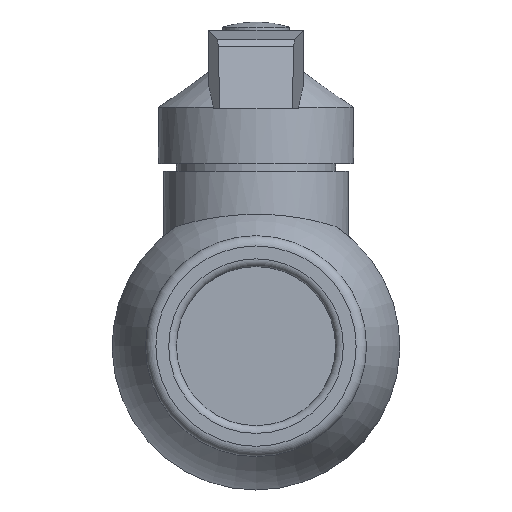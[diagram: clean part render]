
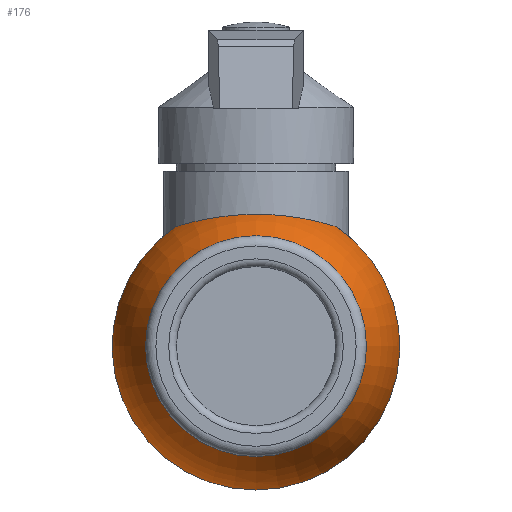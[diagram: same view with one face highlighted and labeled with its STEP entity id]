
A CAD part, front view. The second image highlights one B-rep face of the part: STEP entity #176.
In plain terms, the highlighted toroidal (fillet/blend) face has major radius 25.151 mm and minor radius 53.901 mm.
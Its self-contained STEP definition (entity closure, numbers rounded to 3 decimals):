
#176=ADVANCED_FACE('',(#1094,#1096),#1098,.F.);
#1094=FACE_BOUND('',#1095,.T.);
#1095=EDGE_LOOP('',(#1840,#1841,#1842));
#1096=FACE_OUTER_BOUND('',#1097,.T.);
#1097=EDGE_LOOP('',(#1843));
#1098=DEGENERATE_TOROIDAL_SURFACE('',#1099,25.151,53.901,.F.);
#1099=AXIS2_PLACEMENT_3D('',#1100,#1101,#1102);
#1100=CARTESIAN_POINT('',(0.,0.,0.));
#1101=DIRECTION('',(0.,-1.,0.));
#1102=DIRECTION('',(0.,0.,-1.));
#1840=ORIENTED_EDGE('',*,*,#2186,.F.);
#1841=ORIENTED_EDGE('',*,*,#2188,.T.);
#1842=ORIENTED_EDGE('',*,*,#2189,.T.);
#1843=ORIENTED_EDGE('',*,*,#2190,.F.);
#2186=EDGE_CURVE('',#2720,#2722,#2723,.T.);
#2188=EDGE_CURVE('',#2720,#2725,#2726,.T.);
#2189=EDGE_CURVE('',#2725,#2722,#2727,.T.);
#2190=EDGE_CURVE('',#2728,#2728,#2729,.T.);
#2720=VERTEX_POINT('',#4238);
#2722=VERTEX_POINT('',#4278);
#2723=B_SPLINE_CURVE_WITH_KNOTS('',3,
(#4279,#4280,#4281,#4282,#4283,#4284,#4285,#4286,#4287,#4288,#4289,#4290,#4291,#4292,
#4293,#4294,#4295,#4296,#4297,#4298,#4299,#4300,#4301,#4302,#4303,#4304,#4305,#4306,
#4307,#4308,#4309,#4310,#4311,#4312,#4313,#4314,#4315,#4316,#4317,#4318,#4319,#4320,
#4321,#4322,#4323,#4324,#4325,#4326,#4327,#4328,#4329,#4330,#4331,#4332,#4333,#4334,
#4335,#4336,#4337,#4338,#4339,#4340,#4341,#4342,#4343,#4344,#4345,#4346,#4347,#4348,
#4349,#4350,#4351,#4352,#4353,#4354,#4355,#4356,#4357,#4358,#4359,#4360,#4361,#4362,
#4363),
.UNSPECIFIED.,.F.,.F.,
(4,1,1,1,1,1,1,1,1,1,1,1,1,1,1,1,1,1,1,1,1,1,1,1,1,1,1,1,1,1,1,1,1,1,1,1,1,1,1,1,
1,1,1,1,1,1,1,1,1,1,1,1,1,1,1,1,1,1,1,1,1,1,1,1,1,1,1,1,1,1,1,1,1,1,1,1,1,1,1,1,
1,1,4),
(0.,0.009,0.019,0.028,0.037,
0.047,0.056,0.066,0.075,0.085,
0.095,0.105,0.115,0.125,0.135,
0.145,0.155,0.165,0.175,0.185,
0.195,0.205,0.219,0.233,0.247,
0.257,0.268,0.279,0.29,0.3,
0.311,0.321,0.332,0.342,0.352,
0.362,0.373,0.383,0.393,0.404,
0.414,0.425,0.436,0.447,0.459,
0.47,0.481,0.493,0.5,0.505,
0.516,0.528,0.54,0.552,0.566,
0.581,0.604,0.628,0.651,0.668,
0.683,0.696,0.71,0.724,0.737,
0.751,0.764,0.777,0.791,0.804,
0.817,0.83,0.843,0.855,0.868,
0.882,0.897,0.918,0.94,0.961,
0.975,0.988,1.),
.UNSPECIFIED.);
#2725=VERTEX_POINT('',#4418);
#2726=CIRCLE('',#4419,28.);
#2727=CIRCLE('',#4423,28.);
#2728=VERTEX_POINT('',#4427);
#2729=CIRCLE('',#4428,21.5);
#4238=CARTESIAN_POINT('',(-15.611,-8.96,23.244));
#4278=CARTESIAN_POINT('',(15.611,-8.96,23.244));
#4279=CARTESIAN_POINT('',(-15.611,-8.96,23.244));
#4280=CARTESIAN_POINT('',(-15.553,-9.062,23.263));
#4281=CARTESIAN_POINT('',(-15.435,-9.263,23.3));
#4282=CARTESIAN_POINT('',(-15.252,-9.561,23.357));
#4283=CARTESIAN_POINT('',(-15.064,-9.855,23.415));
#4284=CARTESIAN_POINT('',(-14.869,-10.147,23.474));
#4285=CARTESIAN_POINT('',(-14.668,-10.436,23.534));
#4286=CARTESIAN_POINT('',(-14.459,-10.723,23.595));
#4287=CARTESIAN_POINT('',(-14.242,-11.01,23.658));
#4288=CARTESIAN_POINT('',(-14.017,-11.295,23.722));
#4289=CARTESIAN_POINT('',(-13.784,-11.578,23.787));
#4290=CARTESIAN_POINT('',(-13.544,-11.857,23.853));
#4291=CARTESIAN_POINT('',(-13.297,-12.134,23.92));
#4292=CARTESIAN_POINT('',(-13.042,-12.407,23.987));
#4293=CARTESIAN_POINT('',(-12.781,-12.677,24.054));
#4294=CARTESIAN_POINT('',(-12.513,-12.941,24.122));
#4295=CARTESIAN_POINT('',(-12.24,-13.2,24.189));
#4296=CARTESIAN_POINT('',(-11.961,-13.453,24.256));
#4297=CARTESIAN_POINT('',(-11.677,-13.7,24.323));
#4298=CARTESIAN_POINT('',(-11.387,-13.942,24.389));
#4299=CARTESIAN_POINT('',(-11.091,-14.178,24.455));
#4300=CARTESIAN_POINT('',(-10.79,-14.41,24.52));
#4301=CARTESIAN_POINT('',(-10.445,-14.662,24.592));
#4302=CARTESIAN_POINT('',(-10.055,-14.933,24.671));
#4303=CARTESIAN_POINT('',(-9.616,-15.219,24.756));
#4304=CARTESIAN_POINT('',(-9.202,-15.472,24.833));
#4305=CARTESIAN_POINT('',(-8.817,-15.695,24.901));
#4306=CARTESIAN_POINT('',(-8.462,-15.888,24.961));
#4307=CARTESIAN_POINT('',(-8.103,-16.075,25.019));
#4308=CARTESIAN_POINT('',(-7.739,-16.253,25.075));
#4309=CARTESIAN_POINT('',(-7.374,-16.422,25.129));
#4310=CARTESIAN_POINT('',(-7.008,-16.582,25.18));
#4311=CARTESIAN_POINT('',(-6.641,-16.732,25.229));
#4312=CARTESIAN_POINT('',(-6.274,-16.873,25.275));
#4313=CARTESIAN_POINT('',(-5.906,-17.005,25.318));
#4314=CARTESIAN_POINT('',(-5.538,-17.128,25.359));
#4315=CARTESIAN_POINT('',(-5.168,-17.243,25.398));
#4316=CARTESIAN_POINT('',(-4.795,-17.351,25.434));
#4317=CARTESIAN_POINT('',(-4.417,-17.451,25.468));
#4318=CARTESIAN_POINT('',(-4.033,-17.544,25.499));
#4319=CARTESIAN_POINT('',(-3.643,-17.629,25.528));
#4320=CARTESIAN_POINT('',(-3.245,-17.707,25.554));
#4321=CARTESIAN_POINT('',(-2.841,-17.776,25.578));
#4322=CARTESIAN_POINT('',(-2.427,-17.837,25.599));
#4323=CARTESIAN_POINT('',(-2.005,-17.89,25.617));
#4324=CARTESIAN_POINT('',(-1.577,-17.933,25.632));
#4325=CARTESIAN_POINT('',(-1.144,-17.965,25.644));
#4326=CARTESIAN_POINT('',(-0.706,-17.988,25.651));
#4327=CARTESIAN_POINT('',(-0.324,-17.998,25.655));
#4328=CARTESIAN_POINT('',(-0.029,-18.,25.656));
#4329=CARTESIAN_POINT('',(0.268,-17.999,25.655));
#4330=CARTESIAN_POINT('',(0.626,-17.991,25.653));
#4331=CARTESIAN_POINT('',(1.076,-17.97,25.645));
#4332=CARTESIAN_POINT('',(1.529,-17.937,25.634));
#4333=CARTESIAN_POINT('',(2.007,-17.89,25.618));
#4334=CARTESIAN_POINT('',(2.527,-17.825,25.595));
#4335=CARTESIAN_POINT('',(3.18,-17.722,25.56));
#4336=CARTESIAN_POINT('',(3.947,-17.569,25.508));
#4337=CARTESIAN_POINT('',(4.805,-17.354,25.435));
#4338=CARTESIAN_POINT('',(5.572,-17.121,25.357));
#4339=CARTESIAN_POINT('',(6.231,-16.891,25.281));
#4340=CARTESIAN_POINT('',(6.764,-16.684,25.213));
#4341=CARTESIAN_POINT('',(7.258,-16.475,25.146));
#4342=CARTESIAN_POINT('',(7.728,-16.259,25.077));
#4343=CARTESIAN_POINT('',(8.19,-16.032,25.005));
#4344=CARTESIAN_POINT('',(8.643,-15.792,24.931));
#4345=CARTESIAN_POINT('',(9.086,-15.541,24.854));
#4346=CARTESIAN_POINT('',(9.518,-15.28,24.775));
#4347=CARTESIAN_POINT('',(9.941,-15.009,24.694));
#4348=CARTESIAN_POINT('',(10.352,-14.728,24.612));
#4349=CARTESIAN_POINT('',(10.752,-14.438,24.528));
#4350=CARTESIAN_POINT('',(11.142,-14.14,24.444));
#4351=CARTESIAN_POINT('',(11.52,-13.834,24.359));
#4352=CARTESIAN_POINT('',(11.886,-13.521,24.274));
#4353=CARTESIAN_POINT('',(12.24,-13.201,24.189));
#4354=CARTESIAN_POINT('',(12.593,-12.864,24.102));
#4355=CARTESIAN_POINT('',(12.958,-12.497,24.009));
#4356=CARTESIAN_POINT('',(13.388,-12.038,23.896));
#4357=CARTESIAN_POINT('',(13.863,-11.491,23.766));
#4358=CARTESIAN_POINT('',(14.361,-10.862,23.625));
#4359=CARTESIAN_POINT('',(14.779,-10.282,23.501));
#4360=CARTESIAN_POINT('',(15.118,-9.774,23.398));
#4361=CARTESIAN_POINT('',(15.379,-9.357,23.317));
#4362=CARTESIAN_POINT('',(15.538,-9.088,23.267));
#4363=CARTESIAN_POINT('',(15.611,-8.96,23.244));
#4418=CARTESIAN_POINT('',(0.,-8.96,-28.));
#4419=AXIS2_PLACEMENT_3D('',#4420,#4421,#4422);
#4420=CARTESIAN_POINT('',(0.,-8.96,0.));
#4421=DIRECTION('',(0.,-1.,0.));
#4422=DIRECTION('',(-0.558,0.,0.83));
#4423=AXIS2_PLACEMENT_3D('',#4424,#4425,#4426);
#4424=CARTESIAN_POINT('',(0.,-8.96,0.));
#4425=DIRECTION('',(0.,-1.,0.));
#4426=DIRECTION('',(0.,0.,-1.));
#4427=CARTESIAN_POINT('',(0.,-27.,-21.5));
#4428=AXIS2_PLACEMENT_3D('',#4429,#4430,#4431);
#4429=CARTESIAN_POINT('',(0.,-27.,0.));
#4430=DIRECTION('',(0.,-1.,0.));
#4431=DIRECTION('',(0.,0.,-1.));
